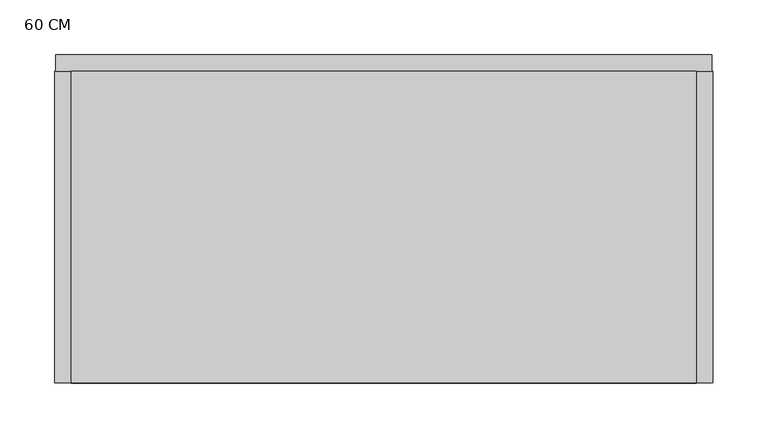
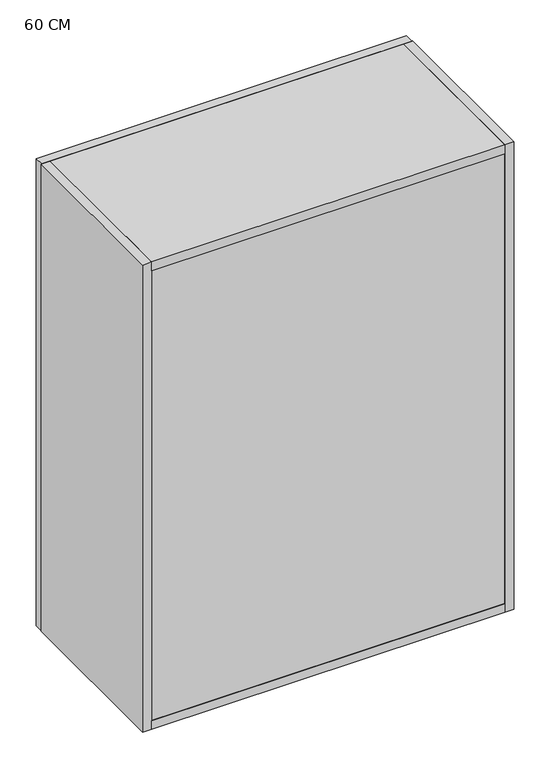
"""IFC4 building model written with IfcOpenShell, lengths in millimetres: furniture geometry, Mueble superior 1 puertas : 60 CM."""

from ifc_helpers import new_model, si_unit, frame, origin, place, context, project, spatial, polyline, outline, extrude, source, transform, mapped, element, save


def furniture_60_cm_2a39175a(model_context):
    return source(origin(), model_context, "Body", "SweptSolid", [
        extrude(outline(polyline([(411.0, 365.0), (411.0, 80.0), (-161.0, 80.0), (-161.0, 365.0), (411.0, 365.0)])), frame((0.0, 0.0, 2385.0), z_axis=(0.0, 0.0, 1.0), x_axis=(1.0, 0.0, 0.0)), (0.0, 0.0, 1.0), 15.0),
        extrude(outline(polyline([(411.0, 365.0), (411.0, 80.0), (-161.0, 80.0), (-161.0, 365.0), (411.0, 365.0)])), frame((0.0, 0.0, 1600.0), z_axis=(0.0, 0.0, 1.0), x_axis=(1.0, 0.0, 0.0)), (0.0, 0.0, 1.0), 15.0),
        extrude(outline(polyline([(425.0, 365.0), (-175.0, 365.0), (-175.0, 380.0), (425.0, 380.0), (425.0, 365.0)])), frame((0.0, 0.0, 1600.0), z_axis=(0.0, 0.0, 1.0), x_axis=(1.0, 0.0, 0.0)), (0.0, 0.0, 1.0), 800.0),
        extrude(outline(polyline([(-161.0, 365.0), (-161.0, 80.0), (-176.0, 80.0), (-176.0, 365.0), (-161.0, 365.0)])), frame((0.0, 0.0, 1600.0), z_axis=(0.0, 0.0, 1.0), x_axis=(1.0, 0.0, 0.0)), (0.0, 0.0, 1.0), 800.0),
        extrude(outline(polyline([(411.0, 365.0), (426.0, 365.0), (426.0, 80.0), (411.0, 80.0), (411.0, 365.0)])), frame((0.0, 0.0, 1600.0), z_axis=(0.0, 0.0, 1.0), x_axis=(1.0, 0.0, 0.0)), (0.0, 0.0, 1.0), 800.0),
        extrude(outline(polyline([(411.0, 80.0), (-161.0, 80.0), (-161.0, 100.0), (411.0, 100.0), (411.0, 80.0)])), frame((0.0, 0.0, 1615.0), z_axis=(0.0, 0.0, 1.0), x_axis=(1.0, 0.0, 0.0)), (0.0, 0.0, 1.0), 770.0),
    ])


if __name__ == "__main__":
    model = new_model("IFC4")
    model_context = context("Model", 3, world=origin())
    ifc_project = project(units=[si_unit("LENGTHUNIT", "METRE", prefix="MILLI")], contexts=[model_context])
    site = spatial("IfcSite", under=ifc_project)
    building = spatial("IfcBuilding", under=site)
    placement = place(None, origin())
    furniture_60_cm_shape = furniture_60_cm_2a39175a(model_context)
    element("IfcFurniture", 1, ObjectType="Mueble superior 1 puertas : 60 CM", at=placement, inside=building, context=model_context, shape_type="MappedRepresentation", body=[
        mapped(furniture_60_cm_shape, transform((0.0, 0.0, 0.0), x_axis=(1.0, 0.0, 0.0), y_axis=(0.0, 1.0, 0.0), z_axis=(0.0, 0.0, 1.0))),
    ])
    save(model, "model.ifc")
